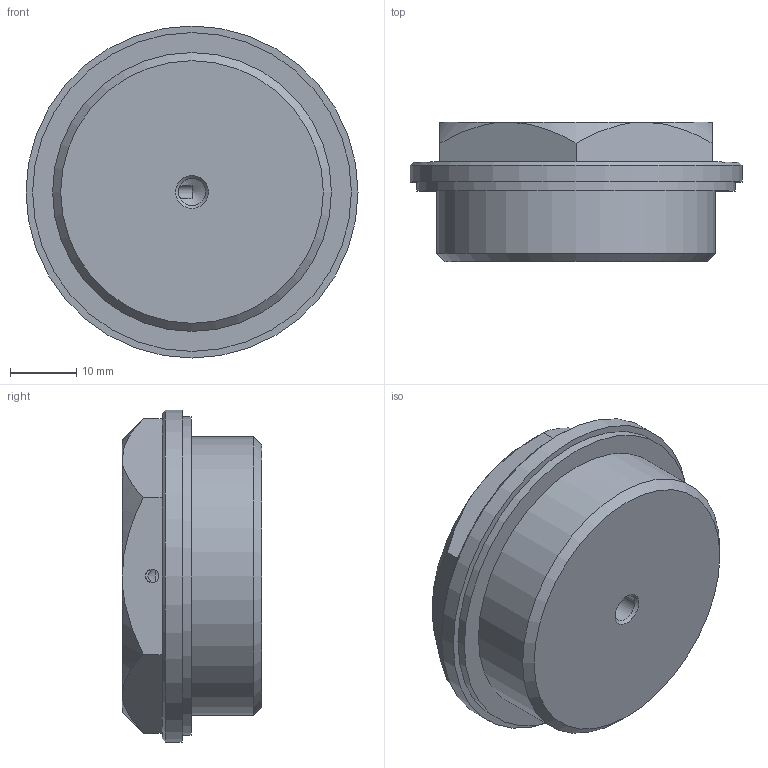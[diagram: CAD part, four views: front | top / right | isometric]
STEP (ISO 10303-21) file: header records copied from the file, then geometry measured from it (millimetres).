
FILE_DESCRIPTION( ( 'STEP AP203' ), '1' );
FILE_NAME( 'C:/Temp/Ganter_Step_05_03_2020/data/3_5/gn742/gn742_2/Threaded plug GN 742-50-M42x2-ES-2.stp', '2020-03-12T13:39:35', ( 'License CC BY-ND 4.0' ), ( 'CADENAS' ), ' ', 'PARTsolutions', ' ' );
FILE_SCHEMA( ( 'CONFIG_CONTROL_DESIGN' ) );
Length unit declared in the file: millimetre
Products named in the file (1): _Threaded plug GN 742-50-M42x2-ES-2
Bounding box: 50 x 21 x 50 mm (x, y, z)
Volume: 31289.5 mm3; surface area: 6943.8 mm2
Topology: 1 solids, 1 shells, 54 faces, 134 edges, 86 vertices
Faces by surface type: plane 39, cone 10, cylinder 5
Full cylindrical faces by diameter (mm): 2 x1, 4.134 x1, 42 x1, 48 x1, 50 x1
Entity records: 1651 total; most frequent: CARTESIAN_POINT 381, ORIENTED_EDGE 246, DIRECTION 237, EDGE_CURVE 123, LINE 89, VECTOR 89, VERTEX_POINT 84, AXIS2_PLACEMENT_3D 74
